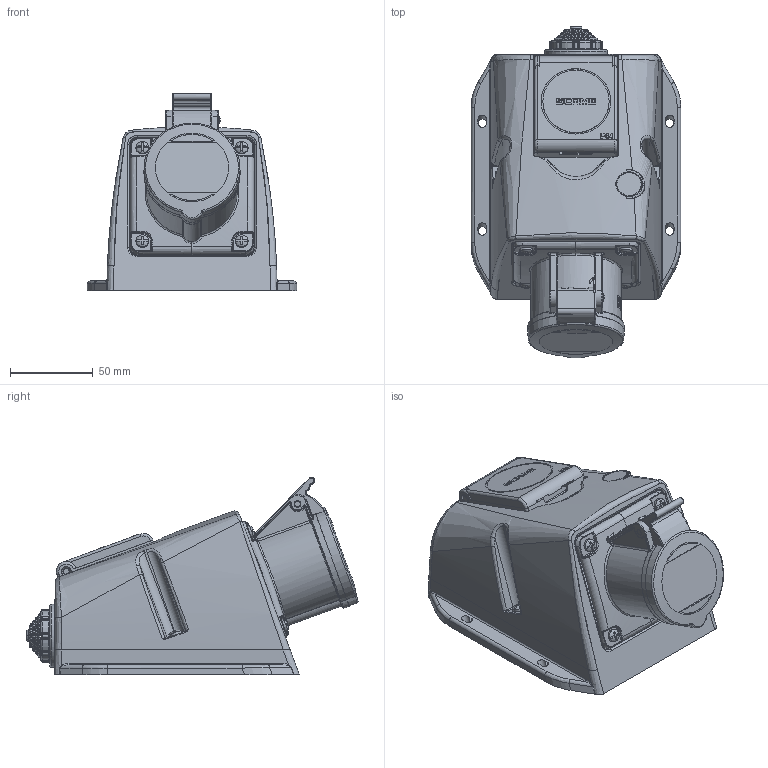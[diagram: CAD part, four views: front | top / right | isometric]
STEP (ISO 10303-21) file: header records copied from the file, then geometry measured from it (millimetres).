
FILE_DESCRIPTION(/* description */ (''),/* implementation_level */ '2;1');
FILE_NAME(/* name */ '4002838.stp',/* time_stamp */ '2017-05-08T23:44:31+02:00',/* author */ (''),/* organization */ (''),/* preprocessor_version */ 'ST-DEVELOPER v16',/* originating_system */ 'SIEMENS PLM Software NX 11.0',/* authorisation */ '');
FILE_SCHEMA (('AUTOMOTIVE_DESIGN { 1 0 10303 214 3 1 1 1 }'));
Length unit declared in the file: millimetre
Products named in the file (1): 4002838_LINKEDEXT_jt
Bounding box: 126.5 x 200.19 x 119.17 mm (x, y, z)
Surface area: 106025.8 mm2 (no closed solid volume)
Topology: 0 solids, 62 shells, 746 faces, 2945 edges, 2135 vertices
Faces by surface type: bspline 275, cylinder 225, plane 179, torus 39, cone 20, sphere 8
Full cylindrical faces by diameter (mm): 0.998 x4, 4 x1, 5 x1, 7.1 x1, 7.6 x6, 38 x1
Entity records: 76355 total; most frequent: CARTESIAN_POINT 50539, ORIENTED_EDGE 4074, DIRECTION 3354, EDGE_CURVE 2873, VERTEX_POINT 2124, AXIS2_PLACEMENT_3D 1152, B_SPLINE_CURVE_WITH_KNOTS 1137, LINE 1050
